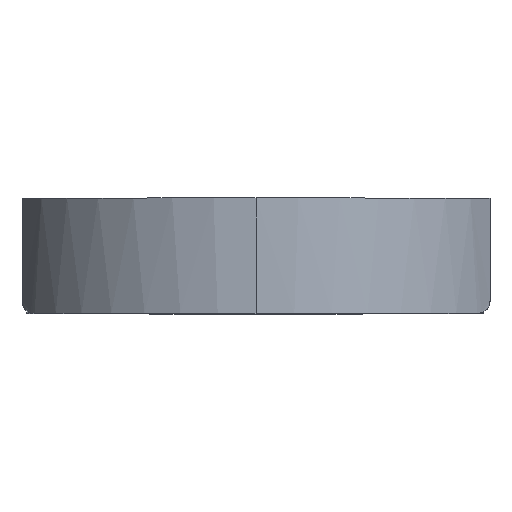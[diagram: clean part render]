
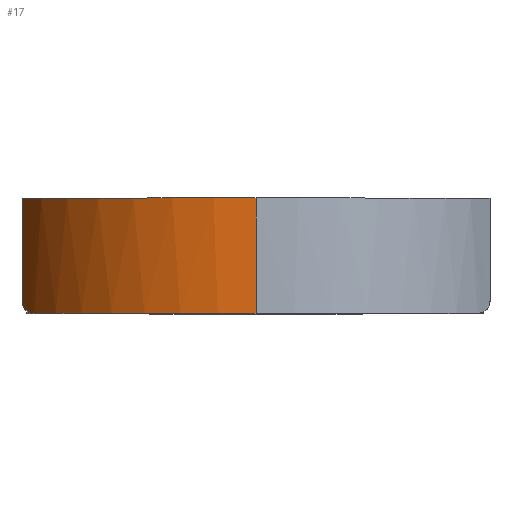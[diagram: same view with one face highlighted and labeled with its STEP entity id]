
A CAD part, top view. The second image highlights one B-rep face of the part: STEP entity #17.
In plain terms, the highlighted cylindrical face has radius 20 mm (diameter 40 mm), a partial arc.
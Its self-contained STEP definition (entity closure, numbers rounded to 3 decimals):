
#17 = ADVANCED_FACE('',(#18),#33,.T.);
#18 = FACE_BOUND('',#19,.T.);
#19 = EDGE_LOOP('',(#20,#56,#84,#113,#141));
#20 = ORIENTED_EDGE('',*,*,#21,.T.);
#21 = EDGE_CURVE('',#22,#24,#26,.T.);
#22 = VERTEX_POINT('',#23);
#23 = CARTESIAN_POINT('',(-17.5,0.,9.682));
#24 = VERTEX_POINT('',#25);
#25 = CARTESIAN_POINT('',(0.,0.,20.));
#26 = SURFACE_CURVE('',#27,(#32,#44),.PCURVE_S1.);
#27 = CIRCLE('',#28,20.);
#28 = AXIS2_PLACEMENT_3D('',#29,#30,#31);
#29 = CARTESIAN_POINT('',(0.,0.,0.));
#30 = DIRECTION('',(0.,1.,0.));
#31 = DIRECTION('',(0.,-0.,1.));
#32 = PCURVE('',#33,#38);
#33 = CYLINDRICAL_SURFACE('',#34,20.);
#34 = AXIS2_PLACEMENT_3D('',#35,#36,#37);
#35 = CARTESIAN_POINT('',(0.,0.,0.));
#36 = DIRECTION('',(0.,1.,0.));
#37 = DIRECTION('',(0.,-0.,1.));
#38 = DEFINITIONAL_REPRESENTATION('',(#39),#43);
#39 = LINE('',#40,#41);
#40 = CARTESIAN_POINT('',(0.,0.));
#41 = VECTOR('',#42,1.);
#42 = DIRECTION('',(1.,0.));
#43 = ( GEOMETRIC_REPRESENTATION_CONTEXT(2) 
PARAMETRIC_REPRESENTATION_CONTEXT() REPRESENTATION_CONTEXT('2D SPACE',''
  ) );
#44 = PCURVE('',#45,#50);
#45 = PLANE('',#46);
#46 = AXIS2_PLACEMENT_3D('',#47,#48,#49);
#47 = CARTESIAN_POINT('',(0.,0.,0.));
#48 = DIRECTION('',(0.,1.,0.));
#49 = DIRECTION('',(0.,-0.,1.));
#50 = DEFINITIONAL_REPRESENTATION('',(#51),#55);
#51 = CIRCLE('',#52,20.);
#52 = AXIS2_PLACEMENT_2D('',#53,#54);
#53 = CARTESIAN_POINT('',(0.,0.));
#54 = DIRECTION('',(1.,0.));
#55 = ( GEOMETRIC_REPRESENTATION_CONTEXT(2) 
PARAMETRIC_REPRESENTATION_CONTEXT() REPRESENTATION_CONTEXT('2D SPACE',''
  ) );
#56 = ORIENTED_EDGE('',*,*,#57,.T.);
#57 = EDGE_CURVE('',#24,#58,#60,.T.);
#58 = VERTEX_POINT('',#59);
#59 = CARTESIAN_POINT('',(0.,9.113,20.));
#60 = SURFACE_CURVE('',#61,(#65,#72),.PCURVE_S1.);
#61 = LINE('',#62,#63);
#62 = CARTESIAN_POINT('',(0.,0.,20.));
#63 = VECTOR('',#64,1.);
#64 = DIRECTION('',(0.,1.,0.));
#65 = PCURVE('',#33,#66);
#66 = DEFINITIONAL_REPRESENTATION('',(#67),#71);
#67 = LINE('',#68,#69);
#68 = CARTESIAN_POINT('',(6.283,0.));
#69 = VECTOR('',#70,1.);
#70 = DIRECTION('',(0.,1.));
#71 = ( GEOMETRIC_REPRESENTATION_CONTEXT(2) 
PARAMETRIC_REPRESENTATION_CONTEXT() REPRESENTATION_CONTEXT('2D SPACE',''
  ) );
#72 = PCURVE('',#73,#78);
#73 = CYLINDRICAL_SURFACE('',#74,20.);
#74 = AXIS2_PLACEMENT_3D('',#75,#76,#77);
#75 = CARTESIAN_POINT('',(0.,0.,0.));
#76 = DIRECTION('',(0.,1.,0.));
#77 = DIRECTION('',(0.,-0.,1.));
#78 = DEFINITIONAL_REPRESENTATION('',(#79),#83);
#79 = LINE('',#80,#81);
#80 = CARTESIAN_POINT('',(0.,0.));
#81 = VECTOR('',#82,1.);
#82 = DIRECTION('',(0.,1.));
#83 = ( GEOMETRIC_REPRESENTATION_CONTEXT(2) 
PARAMETRIC_REPRESENTATION_CONTEXT() REPRESENTATION_CONTEXT('2D SPACE',''
  ) );
#84 = ORIENTED_EDGE('',*,*,#85,.F.);
#85 = EDGE_CURVE('',#86,#58,#88,.T.);
#86 = VERTEX_POINT('',#87);
#87 = CARTESIAN_POINT('',(-18.5,9.113,7.599));
#88 = SURFACE_CURVE('',#89,(#94,#101),.PCURVE_S1.);
#89 = CIRCLE('',#90,20.);
#90 = AXIS2_PLACEMENT_3D('',#91,#92,#93);
#91 = CARTESIAN_POINT('',(0.,9.113,0.));
#92 = DIRECTION('',(0.,1.,0.));
#93 = DIRECTION('',(0.,-0.,1.));
#94 = PCURVE('',#33,#95);
#95 = DEFINITIONAL_REPRESENTATION('',(#96),#100);
#96 = LINE('',#97,#98);
#97 = CARTESIAN_POINT('',(0.,9.113));
#98 = VECTOR('',#99,1.);
#99 = DIRECTION('',(1.,0.));
#100 = ( GEOMETRIC_REPRESENTATION_CONTEXT(2) 
PARAMETRIC_REPRESENTATION_CONTEXT() REPRESENTATION_CONTEXT('2D SPACE',''
  ) );
#101 = PCURVE('',#102,#107);
#102 = PLANE('',#103);
#103 = AXIS2_PLACEMENT_3D('',#104,#105,#106);
#104 = CARTESIAN_POINT('',(0.,9.113,0.));
#105 = DIRECTION('',(0.,1.,0.));
#106 = DIRECTION('',(0.,-0.,1.));
#107 = DEFINITIONAL_REPRESENTATION('',(#108),#112);
#108 = CIRCLE('',#109,20.);
#109 = AXIS2_PLACEMENT_2D('',#110,#111);
#110 = CARTESIAN_POINT('',(0.,0.));
#111 = DIRECTION('',(1.,0.));
#112 = ( GEOMETRIC_REPRESENTATION_CONTEXT(2) 
PARAMETRIC_REPRESENTATION_CONTEXT() REPRESENTATION_CONTEXT('2D SPACE',''
  ) );
#113 = ORIENTED_EDGE('',*,*,#114,.F.);
#114 = EDGE_CURVE('',#115,#86,#117,.T.);
#115 = VERTEX_POINT('',#116);
#116 = CARTESIAN_POINT('',(-18.5,1.,7.599));
#117 = SURFACE_CURVE('',#118,(#122,#129),.PCURVE_S1.);
#118 = LINE('',#119,#120);
#119 = CARTESIAN_POINT('',(-18.5,0.,7.599));
#120 = VECTOR('',#121,1.);
#121 = DIRECTION('',(0.,1.,0.));
#122 = PCURVE('',#33,#123);
#123 = DEFINITIONAL_REPRESENTATION('',(#124),#128);
#124 = LINE('',#125,#126);
#125 = CARTESIAN_POINT('',(5.102,0.));
#126 = VECTOR('',#127,1.);
#127 = DIRECTION('',(0.,1.));
#128 = ( GEOMETRIC_REPRESENTATION_CONTEXT(2) 
PARAMETRIC_REPRESENTATION_CONTEXT() REPRESENTATION_CONTEXT('2D SPACE',''
  ) );
#129 = PCURVE('',#130,#135);
#130 = PLANE('',#131);
#131 = AXIS2_PLACEMENT_3D('',#132,#133,#134);
#132 = CARTESIAN_POINT('',(-18.5,0.,0.));
#133 = DIRECTION('',(-1.,0.,0.));
#134 = DIRECTION('',(0.,0.,1.));
#135 = DEFINITIONAL_REPRESENTATION('',(#136),#140);
#136 = LINE('',#137,#138);
#137 = CARTESIAN_POINT('',(7.599,0.));
#138 = VECTOR('',#139,1.);
#139 = DIRECTION('',(0.,1.));
#140 = ( GEOMETRIC_REPRESENTATION_CONTEXT(2) 
PARAMETRIC_REPRESENTATION_CONTEXT() REPRESENTATION_CONTEXT('2D SPACE',''
  ) );
#141 = ORIENTED_EDGE('',*,*,#142,.T.);
#142 = EDGE_CURVE('',#115,#22,#143,.T.);
#143 = SURFACE_CURVE('',#144,(#157,#186),.PCURVE_S1.);
#144 = B_SPLINE_CURVE_WITH_KNOTS('',3,(#145,#146,#147,#148,#149,#150,
    #151,#152,#153,#154,#155,#156),.UNSPECIFIED.,.F.,.F.,(4,2,2,2,2,4),(
    0.,0.,0.001,0.001,
    0.002,0.003),.UNSPECIFIED.);
#145 = CARTESIAN_POINT('',(-18.5,1.,7.599));
#146 = CARTESIAN_POINT('',(-18.5,0.885,7.599));
#147 = CARTESIAN_POINT('',(-18.48,0.78,7.649
    ));
#148 = CARTESIAN_POINT('',(-18.423,0.606,7.783
    ));
#149 = CARTESIAN_POINT('',(-18.389,0.536,7.865
    ));
#150 = CARTESIAN_POINT('',(-18.276,0.353,8.126)
  );
#151 = CARTESIAN_POINT('',(-18.19,0.268,8.316)
  );
#152 = CARTESIAN_POINT('',(-18.008,0.131,8.703
    ));
#153 = CARTESIAN_POINT('',(-17.913,0.083,
    8.899));
#154 = CARTESIAN_POINT('',(-17.713,0.017,
    9.29));
#155 = CARTESIAN_POINT('',(-17.609,0.,
    9.486));
#156 = CARTESIAN_POINT('',(-17.5,0.,9.682));
#157 = PCURVE('',#33,#158);
#158 = DEFINITIONAL_REPRESENTATION('',(#159),#185);
#159 = B_SPLINE_CURVE_WITH_KNOTS('',3,(#160,#161,#162,#163,#164,#165,
    #166,#167,#168,#169,#170,#171,#172,#173,#174,#175,#176,#177,#178,
    #179,#180,#181,#182,#183,#184),.UNSPECIFIED.,.F.,.F.,(4,1,1,1,1,1,1,
    1,1,1,1,1,1,1,1,1,1,1,1,1,1,1,4),(0.,0.,
    0.,0.,0.,
    0.001,0.001,0.001,
    0.001,0.001,0.001,
    0.001,0.001,0.002,
    0.002,0.002,0.002,
    0.002,0.002,0.002,
    0.002,0.003,0.003),
  .QUASI_UNIFORM_KNOTS.);
#160 = CARTESIAN_POINT('',(5.102,1.));
#161 = CARTESIAN_POINT('',(5.102,0.958));
#162 = CARTESIAN_POINT('',(5.103,0.877));
#163 = CARTESIAN_POINT('',(5.106,0.766));
#164 = CARTESIAN_POINT('',(5.109,0.667));
#165 = CARTESIAN_POINT('',(5.114,0.582));
#166 = CARTESIAN_POINT('',(5.119,0.508));
#167 = CARTESIAN_POINT('',(5.124,0.441));
#168 = CARTESIAN_POINT('',(5.129,0.382));
#169 = CARTESIAN_POINT('',(5.135,0.328));
#170 = CARTESIAN_POINT('',(5.14,0.281));
#171 = CARTESIAN_POINT('',(5.146,0.238));
#172 = CARTESIAN_POINT('',(5.152,0.199));
#173 = CARTESIAN_POINT('',(5.158,0.164));
#174 = CARTESIAN_POINT('',(5.164,0.132));
#175 = CARTESIAN_POINT('',(5.17,0.104));
#176 = CARTESIAN_POINT('',(5.175,0.08));
#177 = CARTESIAN_POINT('',(5.181,0.059));
#178 = CARTESIAN_POINT('',(5.187,0.041));
#179 = CARTESIAN_POINT('',(5.193,0.026));
#180 = CARTESIAN_POINT('',(5.199,0.015));
#181 = CARTESIAN_POINT('',(5.206,0.006));
#182 = CARTESIAN_POINT('',(5.212,0.001));
#183 = CARTESIAN_POINT('',(5.216,0.));
#184 = CARTESIAN_POINT('',(5.218,0.));
#185 = ( GEOMETRIC_REPRESENTATION_CONTEXT(2) 
PARAMETRIC_REPRESENTATION_CONTEXT() REPRESENTATION_CONTEXT('2D SPACE',''
  ) );
#186 = PCURVE('',#187,#192);
#187 = CYLINDRICAL_SURFACE('',#188,1.);
#188 = AXIS2_PLACEMENT_3D('',#189,#190,#191);
#189 = CARTESIAN_POINT('',(-17.5,1.,0.));
#190 = DIRECTION('',(0.,0.,-1.));
#191 = DIRECTION('',(-1.,0.,0.));
#192 = DEFINITIONAL_REPRESENTATION('',(#193),#219);
#193 = B_SPLINE_CURVE_WITH_KNOTS('',3,(#194,#195,#196,#197,#198,#199,
    #200,#201,#202,#203,#204,#205,#206,#207,#208,#209,#210,#211,#212,
    #213,#214,#215,#216,#217,#218),.UNSPECIFIED.,.F.,.F.,(4,1,1,1,1,1,1,
    1,1,1,1,1,1,1,1,1,1,1,1,1,1,1,4),(0.,0.,
    0.,0.,0.,
    0.001,0.001,0.001,
    0.001,0.001,0.001,
    0.001,0.001,0.002,
    0.002,0.002,0.002,
    0.002,0.002,0.002,
    0.002,0.003,0.003),
  .QUASI_UNIFORM_KNOTS.);
#194 = CARTESIAN_POINT('',(6.283,-7.599));
#195 = CARTESIAN_POINT('',(6.242,-7.599));
#196 = CARTESIAN_POINT('',(6.161,-7.612));
#197 = CARTESIAN_POINT('',(6.047,-7.662));
#198 = CARTESIAN_POINT('',(5.944,-7.733));
#199 = CARTESIAN_POINT('',(5.853,-7.815));
#200 = CARTESIAN_POINT('',(5.769,-7.905));
#201 = CARTESIAN_POINT('',(5.691,-8.));
#202 = CARTESIAN_POINT('',(5.618,-8.098));
#203 = CARTESIAN_POINT('',(5.548,-8.198));
#204 = CARTESIAN_POINT('',(5.482,-8.3));
#205 = CARTESIAN_POINT('',(5.418,-8.404));
#206 = CARTESIAN_POINT('',(5.355,-8.51));
#207 = CARTESIAN_POINT('',(5.294,-8.615));
#208 = CARTESIAN_POINT('',(5.234,-8.722));
#209 = CARTESIAN_POINT('',(5.175,-8.828));
#210 = CARTESIAN_POINT('',(5.117,-8.934));
#211 = CARTESIAN_POINT('',(5.059,-9.041));
#212 = CARTESIAN_POINT('',(5.002,-9.147));
#213 = CARTESIAN_POINT('',(4.945,-9.254));
#214 = CARTESIAN_POINT('',(4.887,-9.361));
#215 = CARTESIAN_POINT('',(4.83,-9.468));
#216 = CARTESIAN_POINT('',(4.771,-9.575));
#217 = CARTESIAN_POINT('',(4.732,-9.647));
#218 = CARTESIAN_POINT('',(4.712,-9.682));
#219 = ( GEOMETRIC_REPRESENTATION_CONTEXT(2) 
PARAMETRIC_REPRESENTATION_CONTEXT() REPRESENTATION_CONTEXT('2D SPACE',''
  ) );
